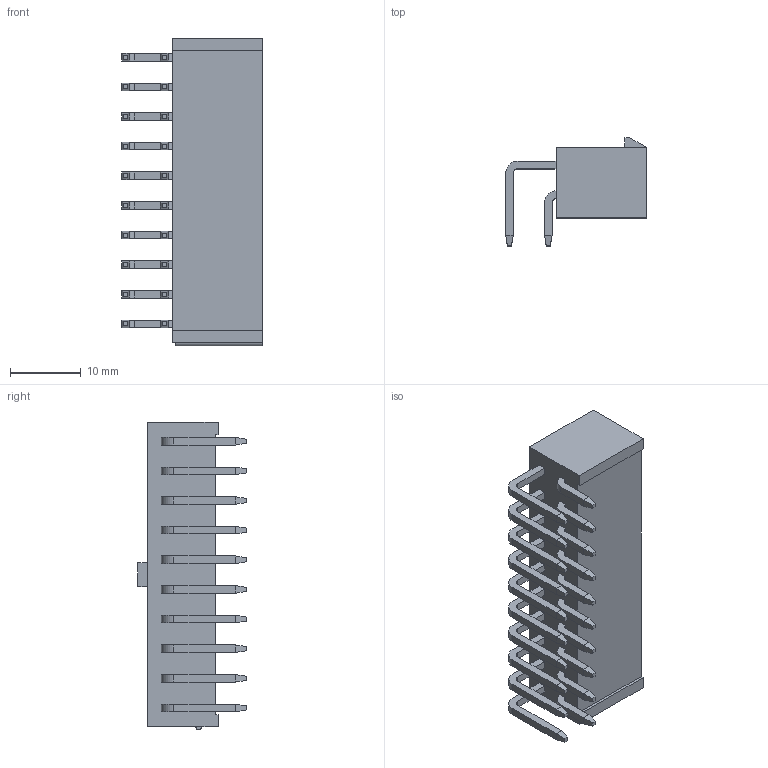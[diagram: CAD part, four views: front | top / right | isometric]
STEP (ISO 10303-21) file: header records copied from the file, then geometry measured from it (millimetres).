
FILE_DESCRIPTION((''),'2;1');
FILE_NAME('353182020','2014-11-19T',('me'),(''),'PRO/ENGINEER BY PARAMETRIC TECHNOLOGY CORPORATION, 2011490','PRO/ENGINEER BY PARAMETRIC TECHNOLOGY CORPORATION, 2011490','');
FILE_SCHEMA(('CONFIG_CONTROL_DESIGN'));
Length unit declared in the file: millimetre
Products named in the file (1): 353182020
Bounding box: 19.93 x 15.4 x 43.6 mm (x, y, z)
Volume: 3447.5 mm3; surface area: 6194.4 mm2
Topology: 1 solids, 1 shells, 557 faces, 1363 edges, 868 vertices
Faces by surface type: plane 516, cylinder 41
Entity records: 15930 total; most frequent: CARTESIAN_POINT 2749, ORIENTED_EDGE 2646, DIRECTION 2601, EDGE_CURVE 1323, VECTOR 1241, LINE 1241, VERTEX_POINT 828, AXIS2_PLACEMENT_3D 680
